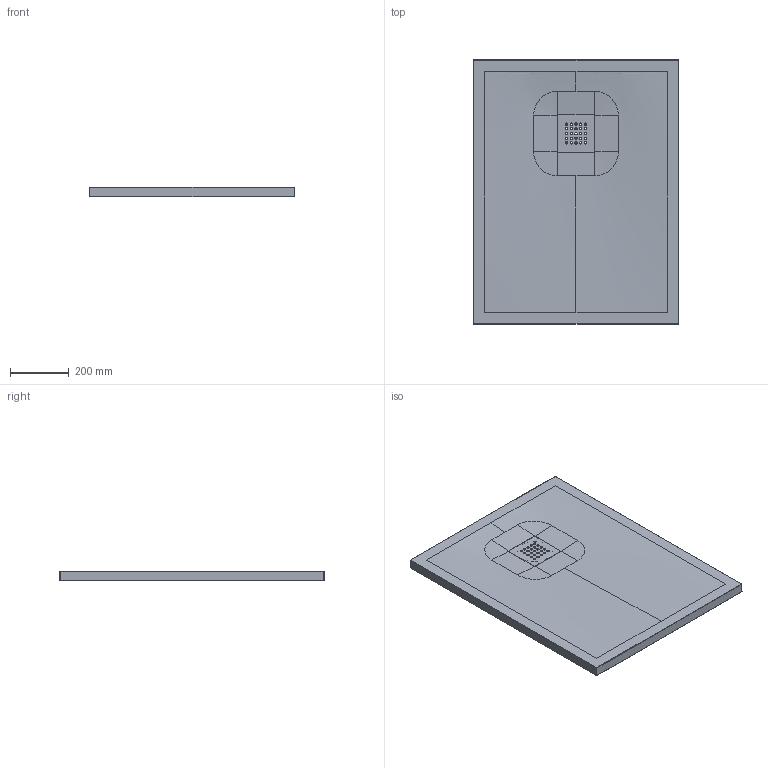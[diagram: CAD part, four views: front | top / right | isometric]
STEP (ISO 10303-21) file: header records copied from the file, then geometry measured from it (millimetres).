
FILE_DESCRIPTION(/* description */ (''),/* implementation_level */ '2;1');
FILE_NAME(/* name */ '900X700',/* time_stamp */ '2024-04-17T11:21:16+02:00',/* author */ (''),/* organization */ (''),/* preprocessor_version */ 'ST-DEVELOPER v16.5',/* originating_system */ 'Rhino 7.36',/* authorisation */ '');
FILE_SCHEMA (('CONFIG_CONTROL_DESIGN'));
Length unit declared in the file: millimetre
Products named in the file (1): Document
Bounding box: 699.98 x 899.98 x 33 mm (x, y, z)
Volume: 18126620.9 mm3; surface area: 1385200.3 mm2
Topology: 2 solids, 2 shells, 121 faces, 319 edges, 197 vertices
Faces by surface type: cylinder 74, plane 25, bspline 22
Entity records: 26551 total; most frequent: CARTESIAN_POINT 24440, ORIENTED_EDGE 620, EDGE_CURVE 310, VERTEX_POINT 196, EDGE_LOOP 176, ADVANCED_FACE 121, FACE_OUTER_BOUND 121, B_SPLINE_CURVE_WITH_KNOTS 107
